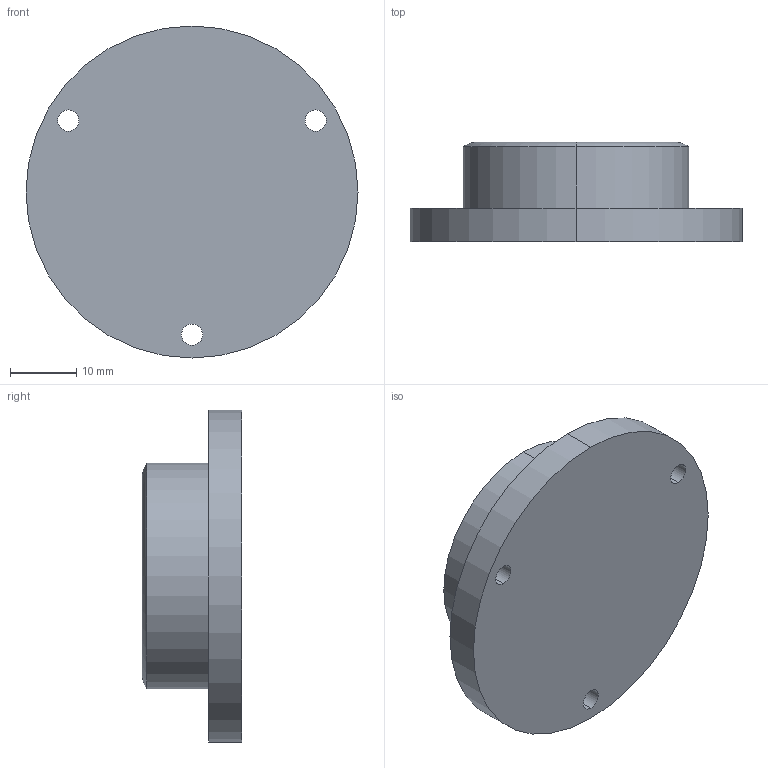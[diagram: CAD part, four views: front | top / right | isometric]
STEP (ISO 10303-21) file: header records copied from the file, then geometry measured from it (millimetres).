
FILE_DESCRIPTION (( 'STEP AP214' ), '1' );
FILE_NAME ('2277-ALN-50-K-30-A.step', '2020-03-26T08:33:03', ( '' ), ( '' ), 'SwSTEP 2.0', 'SolidWorks 2019', '' );
FILE_SCHEMA (( 'AUTOMOTIVE_DESIGN' ));
Length unit declared in the file: millimetre
Products named in the file (1): 2277-ALN-50-K-30-A
Bounding box: 50 x 14.99 x 50 mm (x, y, z)
Volume: 18048.8 mm3; surface area: 5882.8 mm2
Topology: 1 solids, 1 shells, 23 faces, 50 edges, 32 vertices
Faces by surface type: cylinder 16, plane 5, torus 2
Entity records: 714 total; most frequent: DIRECTION 132, CARTESIAN_POINT 106, ORIENTED_EDGE 100, AXIS2_PLACEMENT_3D 58, EDGE_CURVE 50, CIRCLE 34, EDGE_LOOP 32, VERTEX_POINT 32
